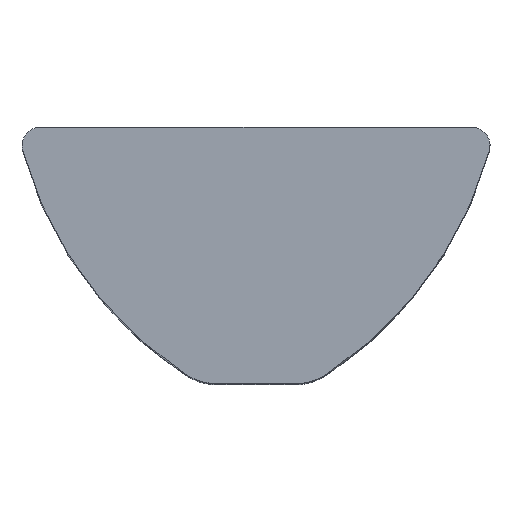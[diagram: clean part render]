
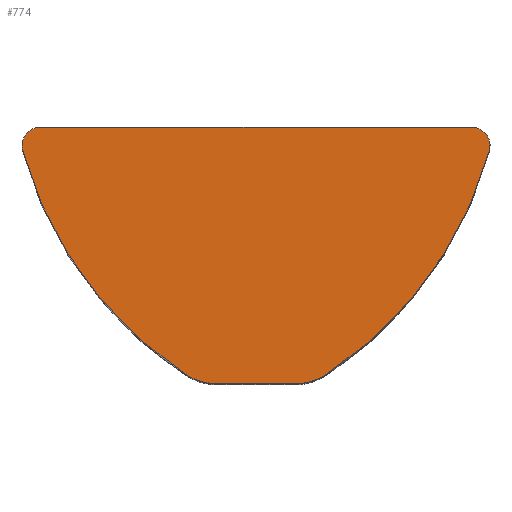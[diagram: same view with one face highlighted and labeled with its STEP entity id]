
A CAD part, top view. The second image highlights one B-rep face of the part: STEP entity #774.
In plain terms, the highlighted planar face has unit normal (0, 0, 1).
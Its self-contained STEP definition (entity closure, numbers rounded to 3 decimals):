
#3 = CARTESIAN_POINT ( 'NONE',  ( -3.03, 3.08, 0. ) ) ;
#14 = VERTEX_POINT ( 'NONE', #64 ) ;
#32 = CARTESIAN_POINT ( 'NONE',  ( 0., 0., 0. ) ) ;
#49 = EDGE_CURVE ( 'NONE', #156, #299, #505, .T. ) ;
#57 = CARTESIAN_POINT ( 'NONE',  ( 0.66, 1.757, 0. ) ) ;
#59 = ORIENTED_EDGE ( 'NONE', *, *, #164, .F. ) ;
#64 = CARTESIAN_POINT ( 'NONE',  ( 0., -1., 0. ) ) ;
#67 = DIRECTION ( 'NONE',  ( 1., 0., 0. ) ) ;
#68 = VERTEX_POINT ( 'NONE', #624 ) ;
#89 = VERTEX_POINT ( 'NONE', #101 ) ;
#91 = ORIENTED_EDGE ( 'NONE', *, *, #307, .F. ) ;
#97 = AXIS2_PLACEMENT_3D ( 'NONE', #587, #216, #646 ) ;
#98 = DIRECTION ( 'NONE',  ( 1., 0., 0. ) ) ;
#101 = CARTESIAN_POINT ( 'NONE',  ( -0.549, -0.836, 0. ) ) ;
#106 = AXIS2_PLACEMENT_3D ( 'NONE', #129, #551, #183 ) ;
#129 = CARTESIAN_POINT ( 'NONE',  ( -1.815, 4.778, 0. ) ) ;
#145 = CARTESIAN_POINT ( 'NONE',  ( 1.869, -0.836, 0. ) ) ;
#156 = VERTEX_POINT ( 'NONE', #738 ) ;
#157 = AXIS2_PLACEMENT_3D ( 'NONE', #371, #173, #546 ) ;
#163 = AXIS2_PLACEMENT_3D ( 'NONE', #351, #763, #413 ) ;
#164 = EDGE_CURVE ( 'NONE', #206, #14, #762, .T. ) ;
#173 = DIRECTION ( 'NONE',  ( 0., 0., 1. ) ) ;
#177 = EDGE_CURVE ( 'NONE', #515, #275, #286, .T. ) ;
#183 = DIRECTION ( 'NONE',  ( 1., 0., 0. ) ) ;
#187 = CARTESIAN_POINT ( 'NONE',  ( -3.03, 3.08, 0. ) ) ;
#206 = VERTEX_POINT ( 'NONE', #623 ) ;
#208 = CARTESIAN_POINT ( 'NONE',  ( -3.35, 3.08, 0. ) ) ;
#216 = DIRECTION ( 'NONE',  ( 0., 0., -1. ) ) ;
#247 = DIRECTION ( 'NONE',  ( 1., 0., 0. ) ) ;
#251 = LINE ( 'NONE', #548, #421 ) ;
#253 = DIRECTION ( 'NONE',  ( 1., 0., 0. ) ) ;
#274 = AXIS2_PLACEMENT_3D ( 'NONE', #187, #619, #253 ) ;
#275 = VERTEX_POINT ( 'NONE', #208 ) ;
#286 = CIRCLE ( 'NONE', #486, 0.32 ) ;
#288 = AXIS2_PLACEMENT_3D ( 'NONE', #32, #470, #98 ) ;
#296 = CARTESIAN_POINT ( 'NONE',  ( 0., -1., 0. ) ) ;
#299 = VERTEX_POINT ( 'NONE', #695 ) ;
#306 = ORIENTED_EDGE ( 'NONE', *, *, #758, .F. ) ;
#307 = EDGE_CURVE ( 'NONE', #89, #68, #529, .T. ) ;
#316 = AXIS2_PLACEMENT_3D ( 'NONE', #57, #381, #789 ) ;
#325 = ORIENTED_EDGE ( 'NONE', *, *, #734, .F. ) ;
#351 = CARTESIAN_POINT ( 'NONE',  ( 1.32, 0., 0. ) ) ;
#365 = VERTEX_POINT ( 'NONE', #145 ) ;
#371 = CARTESIAN_POINT ( 'NONE',  ( 4.35, 3.08, 0. ) ) ;
#381 = DIRECTION ( 'NONE',  ( 0., 0., 1. ) ) ;
#413 = DIRECTION ( 'NONE',  ( 1., 0., 0. ) ) ;
#421 = VECTOR ( 'NONE', #247, 1000. ) ;
#433 = EDGE_CURVE ( 'NONE', #14, #89, #640, .T. ) ;
#439 = ORIENTED_EDGE ( 'NONE', *, *, #783, .T. ) ;
#448 = DIRECTION ( 'NONE',  ( 0., 0., 1. ) ) ;
#469 = EDGE_CURVE ( 'NONE', #365, #206, #674, .T. ) ;
#470 = DIRECTION ( 'NONE',  ( 0., 0., -1. ) ) ;
#473 = VECTOR ( 'NONE', #610, 1000. ) ;
#486 = AXIS2_PLACEMENT_3D ( 'NONE', #3, #448, #67 ) ;
#501 = ORIENTED_EDGE ( 'NONE', *, *, #177, .T. ) ;
#505 = CIRCLE ( 'NONE', #157, 0.32 ) ;
#515 = VERTEX_POINT ( 'NONE', #702 ) ;
#529 = CIRCLE ( 'NONE', #97, 6.714 ) ;
#531 = CIRCLE ( 'NONE', #274, 0.32 ) ;
#546 = DIRECTION ( 'NONE',  ( 1., 0., 0. ) ) ;
#548 = CARTESIAN_POINT ( 'NONE',  ( 3.16, 3.4, 0. ) ) ;
#550 = ORIENTED_EDGE ( 'NONE', *, *, #49, .T. ) ;
#551 = DIRECTION ( 'NONE',  ( 0., 0., -1. ) ) ;
#554 = FACE_OUTER_BOUND ( 'NONE', #564, .T. ) ;
#555 = ORIENTED_EDGE ( 'NONE', *, *, #433, .F. ) ;
#564 = EDGE_LOOP ( 'NONE', ( #306, #550, #325, #501, #439, #91, #555, #59, #754 ) ) ;
#587 = CARTESIAN_POINT ( 'NONE',  ( 3.135, 4.778, 0. ) ) ;
#610 = DIRECTION ( 'NONE',  ( -1., 0., 0. ) ) ;
#616 = PLANE ( 'NONE',  #316 ) ;
#619 = DIRECTION ( 'NONE',  ( 0., 0., 1. ) ) ;
#623 = CARTESIAN_POINT ( 'NONE',  ( 1.32, -1., 0. ) ) ;
#624 = CARTESIAN_POINT ( 'NONE',  ( -3.339, 2.995, 0. ) ) ;
#640 = CIRCLE ( 'NONE', #288, 1. ) ;
#646 = DIRECTION ( 'NONE',  ( 1., 0., 0. ) ) ;
#674 = CIRCLE ( 'NONE', #163, 1. ) ;
#695 = CARTESIAN_POINT ( 'NONE',  ( 4.35, 3.4, 0. ) ) ;
#702 = CARTESIAN_POINT ( 'NONE',  ( -3.03, 3.4, 0. ) ) ;
#708 = CIRCLE ( 'NONE', #106, 6.714 ) ;
#734 = EDGE_CURVE ( 'NONE', #515, #299, #251, .T. ) ;
#738 = CARTESIAN_POINT ( 'NONE',  ( 4.659, 2.995, 0. ) ) ;
#754 = ORIENTED_EDGE ( 'NONE', *, *, #469, .F. ) ;
#758 = EDGE_CURVE ( 'NONE', #156, #365, #708, .T. ) ;
#762 = LINE ( 'NONE', #296, #473 ) ;
#763 = DIRECTION ( 'NONE',  ( 0., 0., -1. ) ) ;
#774 = ADVANCED_FACE ( 'NONE', ( #554 ), #616, .T. ) ;
#783 = EDGE_CURVE ( 'NONE', #275, #68, #531, .T. ) ;
#789 = DIRECTION ( 'NONE',  ( 1., 0., 0. ) ) ;
